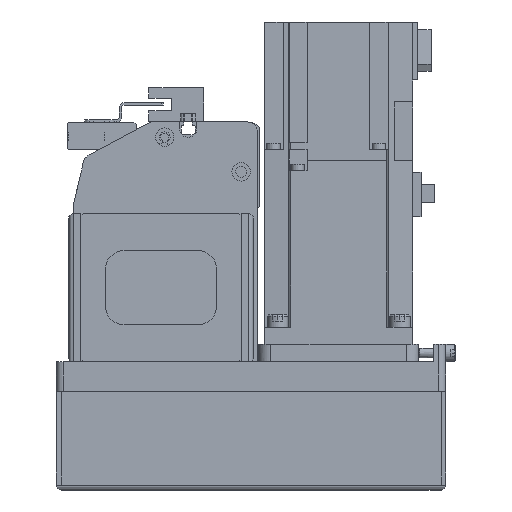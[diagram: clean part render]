
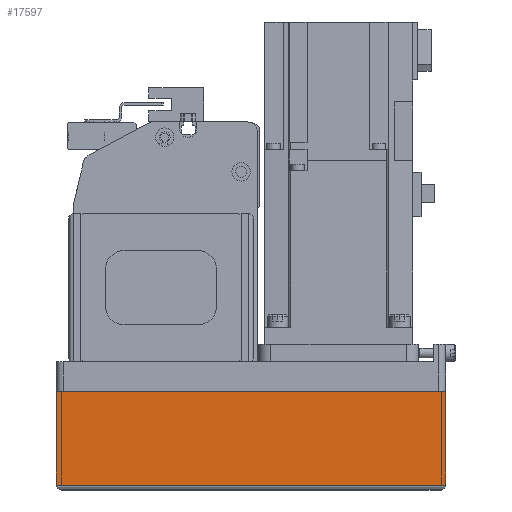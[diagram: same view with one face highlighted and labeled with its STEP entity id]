
A CAD part, left-side view. The second image highlights one B-rep face of the part: STEP entity #17597.
In plain terms, the highlighted planar face has unit normal (-1, 0, 0) as drawn and (0, 1, 0) by its records, which use the part's own axes.
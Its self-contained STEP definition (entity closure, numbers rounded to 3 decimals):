
#2760=ORIENTED_EDGE('',*,*,#7055,.F.);
#2761=ORIENTED_EDGE('',*,*,#7124,.F.);
#2762=ORIENTED_EDGE('',*,*,#7072,.T.);
#2763=ORIENTED_EDGE('',*,*,#7047,.T.);
#7047=EDGE_CURVE('',#9381,#9380,#11174,.T.);
#7055=EDGE_CURVE('',#9388,#9380,#11182,.T.);
#7072=EDGE_CURVE('',#9398,#9381,#11195,.T.);
#7124=EDGE_CURVE('',#9398,#9388,#11224,.T.);
#9380=VERTEX_POINT('',#27022);
#9381=VERTEX_POINT('',#27024);
#9388=VERTEX_POINT('',#27041);
#9398=VERTEX_POINT('',#27072);
#11174=LINE('',#27023,#12777);
#11182=LINE('',#27040,#12785);
#11195=LINE('',#27071,#12798);
#11224=LINE('',#27166,#12827);
#12777=VECTOR('',#21636,1000.);
#12785=VECTOR('',#21648,1000.);
#12798=VECTOR('',#21677,1000.);
#12827=VECTOR('',#21794,1000.);
#14257=EDGE_LOOP('',(#2760,#2761,#2762,#2763));
#15642=FACE_BOUND('',#14257,.T.);
#16856=PLANE('',#18886);
#17597=ADVANCED_FACE('',(#15642),#16856,.T.);
#18886=AXIS2_PLACEMENT_3D('',#27165,#21792,#21793);
#21636=DIRECTION('',(1.,0.,0.));
#21648=DIRECTION('',(0.,0.,1.));
#21677=DIRECTION('',(0.,0.,1.));
#21792=DIRECTION('',(0.,1.,0.));
#21793=DIRECTION('',(0.,0.,1.));
#21794=DIRECTION('',(1.,0.,0.));
#27022=CARTESIAN_POINT('',(0.,39.,-12.1));
#27023=CARTESIAN_POINT('',(-158.,39.,-12.1));
#27024=CARTESIAN_POINT('',(-158.,39.,-12.1));
#27040=CARTESIAN_POINT('',(0.,39.,-50.));
#27041=CARTESIAN_POINT('',(0.,39.,-50.));
#27071=CARTESIAN_POINT('',(-158.,39.,-50.));
#27072=CARTESIAN_POINT('',(-158.,39.,-50.));
#27165=CARTESIAN_POINT('',(-158.,39.,-50.));
#27166=CARTESIAN_POINT('',(-158.,39.,-50.));
